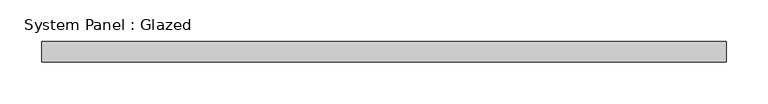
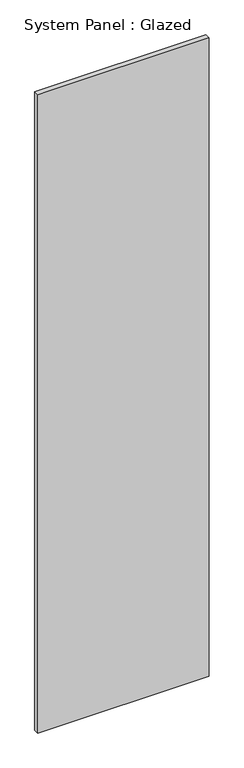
"""IFC4 building model written with IfcOpenShell, lengths in millimetres: plate geometry, System Panel : Glazed."""

from ifc_helpers import new_model, si_unit, origin, origin_with_axes, place, context, project, spatial, polyline, outline, extrude, source, transform, mapped, element, save


def system_panel_glazed_e7fe89f5(model_context):
    return source(origin(), model_context, "Body", "SweptSolid", [
        extrude(outline(polyline([(412.5000002, 24.5), (-412.5000002, 24.5), (-412.5000002, 49.5), (412.5000002, 49.5), (412.5000002, 24.5)])), origin_with_axes(), (0.0, 0.0, 1.0), 3250.0),
    ])


if __name__ == "__main__":
    model = new_model("IFC4")
    model_context = context("Model", 3, world=origin())
    ifc_project = project(units=[si_unit("LENGTHUNIT", "METRE", prefix="MILLI")], contexts=[model_context])
    site = spatial("IfcSite", under=ifc_project)
    building = spatial("IfcBuilding", under=site)
    placement = place(None, origin())
    system_panel_glazed_shape = system_panel_glazed_e7fe89f5(model_context)
    element("IfcPlate", 1, ObjectType="System Panel : Glazed", at=placement, inside=building, context=model_context, shape_type="MappedRepresentation", body=[
        mapped(system_panel_glazed_shape, transform((0.0, 0.0, 0.0), x_axis=(1.0, 0.0, 0.0), y_axis=(0.0, 1.0, 0.0), z_axis=(0.0, 0.0, 1.0))),
    ])
    save(model, "model.ifc")
